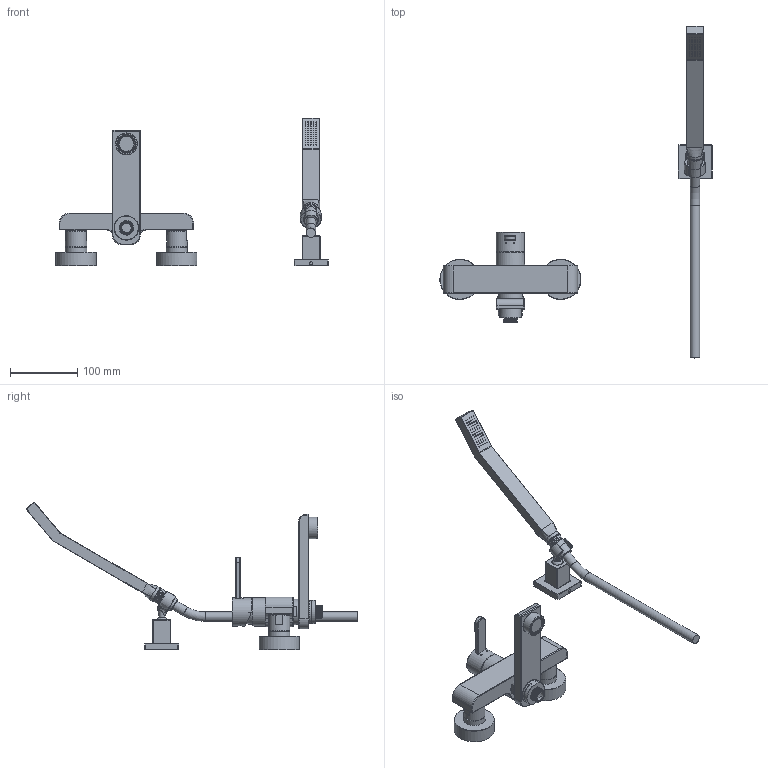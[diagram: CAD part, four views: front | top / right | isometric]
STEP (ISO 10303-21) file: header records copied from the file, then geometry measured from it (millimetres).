
FILE_DESCRIPTION(/* description */ (''),/* implementation_level */ '2;1');
FILE_NAME(/* name */ 'c:\worker\convert-fusion-r08\tmp\job-1\21\output\files\83e1bda4-2bd1-482b-afee-06098922266c\1efd4891-1477-4cce-90ad-cd94d356c37a.stp',/* time_stamp */ '2019-11-26T14:51:58+00:00',/* author */ (''),/* organization */ (''),/* preprocessor_version */ 'ST-DEVELOPER v18',/* originating_system */ 'Autodesk Translation Framework v8.12.0.6',/* authorisation */ '');
FILE_SCHEMA (('AUTOMOTIVE_DESIGN { 1 0 10303 214 3 1 1 }'));
Products named in the file (4): !DA5031 GL; !8859/K v2; waz v1; !Iguacu-R
Assembly tree (3 placements, depth 2):
  !DA5031 GL
    !8859/K v2
    waz v1
    !Iguacu-R
Bounding box: 405.09 x 493.69 x 219.81 mm (x, y, z)
Volume: 797672.6 mm3; surface area: 175893.1 mm2
Topology: 26 solids, 26 shells, 560 faces, 1271 edges, 833 vertices
Faces by surface type: cylinder 212, plane 198, bspline 71, torus 52, cone 15, sphere 12
Full cylindrical faces by diameter (mm): 1 x60, 4.2 x2, 6.4 x1, 6.6 x1, 8 x1, 14 x4, 17.534 x10, 18 x3, 19.822 x7, 20 x3, 21 x2, 21.5 x1, 22.8 x1, 22.9 x1, 24 x1, 24.2 x1, 27 x1, 28.2 x1, 32 x5, 32.5 x3, 34.8 x1, 35.8 x1, 36.5 x1, 37 x1, 38 x1, 42 x2, 42.2 x1, 60 x2
Entity records: 42820 total; most frequent: CARTESIAN_POINT 30087, DIRECTION 2743, ORIENTED_EDGE 2506, EDGE_CURVE 1253, AXIS2_PLACEMENT_3D 1174, VERTEX_POINT 833, CIRCLE 660, EDGE_LOOP 654
